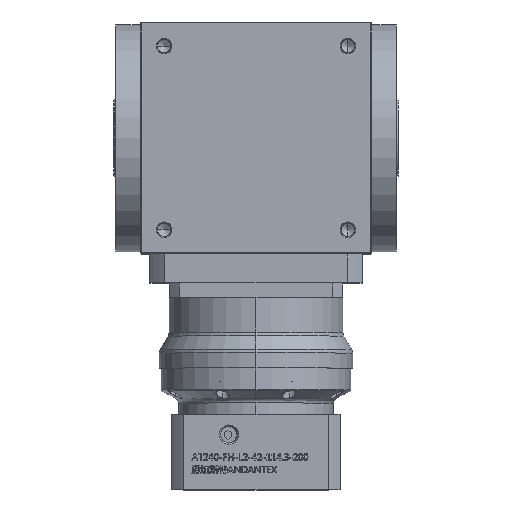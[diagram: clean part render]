
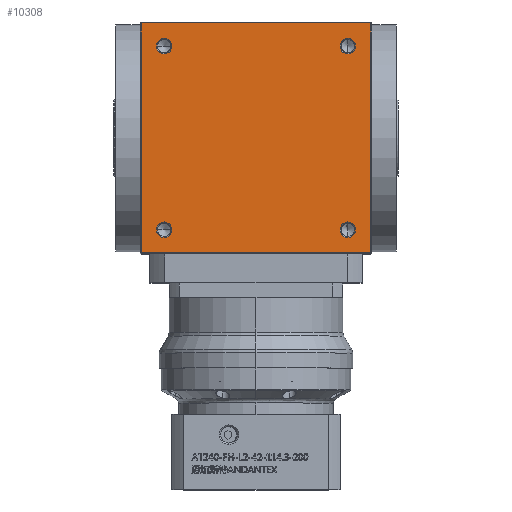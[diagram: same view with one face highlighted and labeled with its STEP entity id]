
A CAD part, top view. The second image highlights one B-rep face of the part: STEP entity #10308.
In plain terms, the highlighted planar face has unit normal (0, 0, 1).
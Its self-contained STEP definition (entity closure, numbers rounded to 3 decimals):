
#759 = CARTESIAN_POINT ( 'NONE',  ( 95., -95., 240. ) ) ;
#1817 = LINE ( 'NONE', #11550, #21022 ) ;
#1963 = ORIENTED_EDGE ( 'NONE', *, *, #17219, .T. ) ;
#2884 = DIRECTION ( 'NONE',  ( 0., -1., 0. ) ) ;
#2935 = ORIENTED_EDGE ( 'NONE', *, *, #16820, .T. ) ;
#3262 = DIRECTION ( 'NONE',  ( 1., 0., 0. ) ) ;
#3387 = CIRCLE ( 'NONE', #4544, 8.025 ) ;
#3759 = CARTESIAN_POINT ( 'NONE',  ( 119., 0., 240. ) ) ;
#3842 = ORIENTED_EDGE ( 'NONE', *, *, #9019, .F. ) ;
#4544 = AXIS2_PLACEMENT_3D ( 'NONE', #18839, #47235, #22921 ) ;
#4846 = DIRECTION ( 'NONE',  ( 0., -1., 0. ) ) ;
#5752 = ORIENTED_EDGE ( 'NONE', *, *, #21601, .T. ) ;
#6031 = AXIS2_PLACEMENT_3D ( 'NONE', #30619, #6213, #34693 ) ;
#6213 = DIRECTION ( 'NONE',  ( 0., 0., -1. ) ) ;
#6250 = CARTESIAN_POINT ( 'NONE',  ( 0., 119., 240. ) ) ;
#6544 = AXIS2_PLACEMENT_3D ( 'NONE', #23569, #51922, #27649 ) ;
#7266 = CARTESIAN_POINT ( 'NONE',  ( -95., -86.975, 240. ) ) ;
#7513 = AXIS2_PLACEMENT_3D ( 'NONE', #35670, #27725, #3262 ) ;
#7738 = AXIS2_PLACEMENT_3D ( 'NONE', #40214, #15919, #44322 ) ;
#8467 = CARTESIAN_POINT ( 'NONE',  ( 95., -86.975, 240. ) ) ;
#8922 = CARTESIAN_POINT ( 'NONE',  ( 119., -119., 240. ) ) ;
#9019 = EDGE_CURVE ( 'NONE', #50617, #45527, #1817, .T. ) ;
#9106 = VECTOR ( 'NONE', #36339, 1000. ) ;
#9214 = LINE ( 'NONE', #46608, #18782 ) ;
#9416 = FACE_OUTER_BOUND ( 'NONE', #9913, .T. ) ;
#9913 = EDGE_LOOP ( 'NONE', ( #33707, #3842, #26960, #31958 ) ) ;
#10064 = VECTOR ( 'NONE', #42905, 1000. ) ;
#10308 = ADVANCED_FACE ( 'NONE', ( #9416, #31044, #40544, #10690, #51339 ), #23642, .T. ) ;
#10690 = FACE_BOUND ( 'NONE', #23831, .T. ) ;
#10731 = VERTEX_POINT ( 'NONE', #45210 ) ;
#11076 = AXIS2_PLACEMENT_3D ( 'NONE', #18639, #47041, #22733 ) ;
#11294 = VERTEX_POINT ( 'NONE', #8922 ) ;
#11550 = CARTESIAN_POINT ( 'NONE',  ( -119., 0., 240. ) ) ;
#12161 = VERTEX_POINT ( 'NONE', #30885 ) ;
#12527 = EDGE_CURVE ( 'NONE', #11294, #50617, #9214, .T. ) ;
#12911 = ORIENTED_EDGE ( 'NONE', *, *, #33983, .T. ) ;
#15075 = DIRECTION ( 'NONE',  ( 0., 0., -1. ) ) ;
#15919 = DIRECTION ( 'NONE',  ( 0., 0., -1. ) ) ;
#16820 = EDGE_CURVE ( 'NONE', #43669, #46188, #45441, .T. ) ;
#17219 = EDGE_CURVE ( 'NONE', #12161, #24270, #20106, .T. ) ;
#18001 = AXIS2_PLACEMENT_3D ( 'NONE', #759, #29308, #4846 ) ;
#18144 = ORIENTED_EDGE ( 'NONE', *, *, #22585, .T. ) ;
#18639 = CARTESIAN_POINT ( 'NONE',  ( 95., 95., 240. ) ) ;
#18775 = EDGE_CURVE ( 'NONE', #21977, #11294, #21228, .T. ) ;
#18782 = VECTOR ( 'NONE', #42515, 1000. ) ;
#18839 = CARTESIAN_POINT ( 'NONE',  ( -95., -95., 240. ) ) ;
#19870 = AXIS2_PLACEMENT_3D ( 'NONE', #51620, #27340, #2884 ) ;
#20106 = CIRCLE ( 'NONE', #7738, 8.025 ) ;
#20915 = LINE ( 'NONE', #6250, #10064 ) ;
#21022 = VECTOR ( 'NONE', #27745, 1000. ) ;
#21228 = LINE ( 'NONE', #3759, #9106 ) ;
#21601 = EDGE_CURVE ( 'NONE', #47050, #38768, #47600, .T. ) ;
#21977 = VERTEX_POINT ( 'NONE', #33865 ) ;
#22585 = EDGE_CURVE ( 'NONE', #44475, #10731, #46158, .T. ) ;
#22733 = DIRECTION ( 'NONE',  ( 0., -1., 0. ) ) ;
#22921 = DIRECTION ( 'NONE',  ( 0., -1., 0. ) ) ;
#23569 = CARTESIAN_POINT ( 'NONE',  ( 95., -95., 240. ) ) ;
#23642 = PLANE ( 'NONE',  #7513 ) ;
#23831 = EDGE_LOOP ( 'NONE', ( #12911, #18144 ) ) ;
#24206 = ORIENTED_EDGE ( 'NONE', *, *, #41845, .T. ) ;
#24270 = VERTEX_POINT ( 'NONE', #28557 ) ;
#26960 = ORIENTED_EDGE ( 'NONE', *, *, #12527, .F. ) ;
#27340 = DIRECTION ( 'NONE',  ( 0., 0., -1. ) ) ;
#27649 = DIRECTION ( 'NONE',  ( 0., -1., 0. ) ) ;
#27725 = DIRECTION ( 'NONE',  ( 0., 0., 1. ) ) ;
#27745 = DIRECTION ( 'NONE',  ( 0., 1., 0. ) ) ;
#28033 = CARTESIAN_POINT ( 'NONE',  ( 95., 103.025, 240. ) ) ;
#28557 = CARTESIAN_POINT ( 'NONE',  ( -95., 103.025, 240. ) ) ;
#28918 = EDGE_LOOP ( 'NONE', ( #1963, #24206 ) ) ;
#29308 = DIRECTION ( 'NONE',  ( 0., 0., -1. ) ) ;
#29536 = CARTESIAN_POINT ( 'NONE',  ( -119., -119., 240. ) ) ;
#30323 = EDGE_CURVE ( 'NONE', #38768, #47050, #3387, .T. ) ;
#30619 = CARTESIAN_POINT ( 'NONE',  ( 95., 95., 240. ) ) ;
#30885 = CARTESIAN_POINT ( 'NONE',  ( -95., 86.975, 240. ) ) ;
#31044 = FACE_BOUND ( 'NONE', #52444, .T. ) ;
#31522 = CIRCLE ( 'NONE', #48517, 8.025 ) ;
#31958 = ORIENTED_EDGE ( 'NONE', *, *, #18775, .F. ) ;
#32462 = CIRCLE ( 'NONE', #6031, 8.025 ) ;
#32493 = CARTESIAN_POINT ( 'NONE',  ( -119., 119., 240. ) ) ;
#33707 = ORIENTED_EDGE ( 'NONE', *, *, #35375, .F. ) ;
#33865 = CARTESIAN_POINT ( 'NONE',  ( 119., 119., 240. ) ) ;
#33983 = EDGE_CURVE ( 'NONE', #10731, #44475, #32462, .T. ) ;
#34693 = DIRECTION ( 'NONE',  ( 0., -1., 0. ) ) ;
#35375 = EDGE_CURVE ( 'NONE', #45527, #21977, #20915, .T. ) ;
#35670 = CARTESIAN_POINT ( 'NONE',  ( 0., 0., 240. ) ) ;
#36252 = CARTESIAN_POINT ( 'NONE',  ( 95., -103.025, 240. ) ) ;
#36339 = DIRECTION ( 'NONE',  ( 0., -1., 0. ) ) ;
#36972 = ORIENTED_EDGE ( 'NONE', *, *, #30323, .T. ) ;
#38768 = VERTEX_POINT ( 'NONE', #7266 ) ;
#39374 = CARTESIAN_POINT ( 'NONE',  ( -95., 95., 240. ) ) ;
#39688 = EDGE_CURVE ( 'NONE', #46188, #43669, #43068, .T. ) ;
#40214 = CARTESIAN_POINT ( 'NONE',  ( -95., 95., 240. ) ) ;
#40544 = FACE_BOUND ( 'NONE', #51691, .T. ) ;
#40735 = ORIENTED_EDGE ( 'NONE', *, *, #39688, .T. ) ;
#41845 = EDGE_CURVE ( 'NONE', #24270, #12161, #31522, .T. ) ;
#42515 = DIRECTION ( 'NONE',  ( -1., 0., 0. ) ) ;
#42905 = DIRECTION ( 'NONE',  ( 1., 0., 0. ) ) ;
#43068 = CIRCLE ( 'NONE', #6544, 8.025 ) ;
#43493 = DIRECTION ( 'NONE',  ( 0., -1., 0. ) ) ;
#43669 = VERTEX_POINT ( 'NONE', #36252 ) ;
#44322 = DIRECTION ( 'NONE',  ( 0., -1., 0. ) ) ;
#44475 = VERTEX_POINT ( 'NONE', #28033 ) ;
#45210 = CARTESIAN_POINT ( 'NONE',  ( 95., 86.975, 240. ) ) ;
#45441 = CIRCLE ( 'NONE', #18001, 8.025 ) ;
#45527 = VERTEX_POINT ( 'NONE', #32493 ) ;
#46158 = CIRCLE ( 'NONE', #11076, 8.025 ) ;
#46188 = VERTEX_POINT ( 'NONE', #8467 ) ;
#46608 = CARTESIAN_POINT ( 'NONE',  ( 0., -119., 240. ) ) ;
#47041 = DIRECTION ( 'NONE',  ( 0., 0., -1. ) ) ;
#47050 = VERTEX_POINT ( 'NONE', #50085 ) ;
#47235 = DIRECTION ( 'NONE',  ( 0., 0., -1. ) ) ;
#47600 = CIRCLE ( 'NONE', #19870, 8.025 ) ;
#48517 = AXIS2_PLACEMENT_3D ( 'NONE', #39374, #15075, #43493 ) ;
#50085 = CARTESIAN_POINT ( 'NONE',  ( -95., -103.025, 240. ) ) ;
#50617 = VERTEX_POINT ( 'NONE', #29536 ) ;
#51339 = FACE_BOUND ( 'NONE', #28918, .T. ) ;
#51620 = CARTESIAN_POINT ( 'NONE',  ( -95., -95., 240. ) ) ;
#51691 = EDGE_LOOP ( 'NONE', ( #2935, #40735 ) ) ;
#51922 = DIRECTION ( 'NONE',  ( 0., 0., -1. ) ) ;
#52444 = EDGE_LOOP ( 'NONE', ( #5752, #36972 ) ) ;
